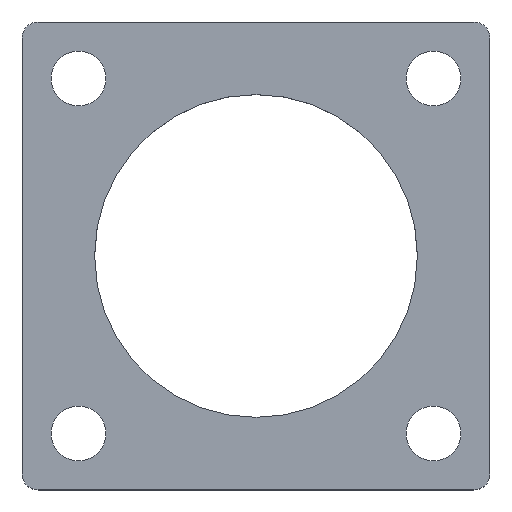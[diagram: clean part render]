
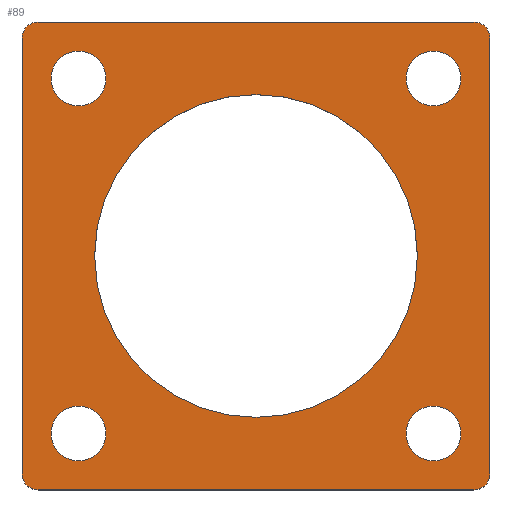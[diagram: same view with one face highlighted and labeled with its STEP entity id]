
A CAD part, top view. The second image highlights one B-rep face of the part: STEP entity #89.
In plain terms, the highlighted planar face has unit normal (0, 0, 1).
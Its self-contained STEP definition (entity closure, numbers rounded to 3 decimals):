
#1 = DIRECTION ( 'NONE',  ( 1., 0., 0. ) ) ;
#3 = VERTEX_POINT ( 'NONE', #399 ) ;
#6 = DIRECTION ( 'NONE',  ( 0., 0., 1. ) ) ;
#7 = VERTEX_POINT ( 'NONE', #364 ) ;
#9 = EDGE_CURVE ( 'NONE', #126, #126, #400, .T. ) ;
#10 = CARTESIAN_POINT ( 'NONE',  ( 13.5, 13.5, 2. ) ) ;
#14 = CARTESIAN_POINT ( 'NONE',  ( 11., 11., 2. ) ) ;
#20 = EDGE_CURVE ( 'NONE', #315, #7, #481, .T. ) ;
#22 = FACE_BOUND ( 'NONE', #165, .T. ) ;
#27 = AXIS2_PLACEMENT_3D ( 'NONE', #229, #344, #352 ) ;
#33 = CARTESIAN_POINT ( 'NONE',  ( 0., 0., 2. ) ) ;
#45 = AXIS2_PLACEMENT_3D ( 'NONE', #157, #354, #1 ) ;
#47 = ORIENTED_EDGE ( 'NONE', *, *, #129, .T. ) ;
#52 = EDGE_LOOP ( 'NONE', ( #489 ) ) ;
#54 = ORIENTED_EDGE ( 'NONE', *, *, #97, .T. ) ;
#56 = DIRECTION ( 'NONE',  ( 0., 0., 1. ) ) ;
#64 = CARTESIAN_POINT ( 'NONE',  ( -13.5, -14.5, 2. ) ) ;
#65 = AXIS2_PLACEMENT_3D ( 'NONE', #190, #186, #182 ) ;
#70 = FACE_BOUND ( 'NONE', #205, .T. ) ;
#74 = ORIENTED_EDGE ( 'NONE', *, *, #305, .T. ) ;
#75 = AXIS2_PLACEMENT_3D ( 'NONE', #10, #132, #86 ) ;
#79 = ORIENTED_EDGE ( 'NONE', *, *, #454, .T. ) ;
#86 = DIRECTION ( 'NONE',  ( 1., 0., 0. ) ) ;
#87 = ORIENTED_EDGE ( 'NONE', *, *, #423, .F. ) ;
#89 = ADVANCED_FACE ( 'NONE', ( #213, #501, #419, #70, #22, #496 ), #220, .T. ) ;
#93 = VECTOR ( 'NONE', #397, 1000. ) ;
#97 = EDGE_CURVE ( 'NONE', #442, #3, #146, .T. ) ;
#101 = DIRECTION ( 'NONE',  ( 0., 0., 1. ) ) ;
#102 = AXIS2_PLACEMENT_3D ( 'NONE', #33, #101, #383 ) ;
#108 = CARTESIAN_POINT ( 'NONE',  ( -13.5, 13.5, 2. ) ) ;
#109 = EDGE_LOOP ( 'NONE', ( #87 ) ) ;
#111 = DIRECTION ( 'NONE',  ( 1., 0., 0. ) ) ;
#115 = EDGE_CURVE ( 'NONE', #160, #437, #374, .T. ) ;
#117 = VERTEX_POINT ( 'NONE', #64 ) ;
#126 = VERTEX_POINT ( 'NONE', #338 ) ;
#128 = EDGE_LOOP ( 'NONE', ( #74, #54, #79, #307, #469, #502, #278, #47 ) ) ;
#129 = EDGE_CURVE ( 'NONE', #7, #117, #136, .T. ) ;
#131 = EDGE_LOOP ( 'NONE', ( #133 ) ) ;
#132 = DIRECTION ( 'NONE',  ( 0., 0., 1. ) ) ;
#133 = ORIENTED_EDGE ( 'NONE', *, *, #329, .F. ) ;
#136 = CIRCLE ( 'NONE', #250, 1. ) ;
#139 = LINE ( 'NONE', #173, #204 ) ;
#142 = CARTESIAN_POINT ( 'NONE',  ( -11., -11., 2. ) ) ;
#146 = CIRCLE ( 'NONE', #65, 1. ) ;
#148 = CARTESIAN_POINT ( 'NONE',  ( 11., -11., 2. ) ) ;
#150 = DIRECTION ( 'NONE',  ( -1., 0., 0. ) ) ;
#151 = VERTEX_POINT ( 'NONE', #331 ) ;
#154 = AXIS2_PLACEMENT_3D ( 'NONE', #108, #415, #378 ) ;
#157 = CARTESIAN_POINT ( 'NONE',  ( -11., 11., 2. ) ) ;
#160 = VERTEX_POINT ( 'NONE', #458 ) ;
#162 = CARTESIAN_POINT ( 'NONE',  ( -14.5, -14.5, 2. ) ) ;
#165 = EDGE_LOOP ( 'NONE', ( #323 ) ) ;
#167 = VERTEX_POINT ( 'NONE', #298 ) ;
#168 = EDGE_CURVE ( 'NONE', #260, #260, #392, .T. ) ;
#170 = DIRECTION ( 'NONE',  ( 1., 0., 0. ) ) ;
#173 = CARTESIAN_POINT ( 'NONE',  ( 14.5, 14.5, 2. ) ) ;
#181 = CARTESIAN_POINT ( 'NONE',  ( 12.7, -11., 2. ) ) ;
#182 = DIRECTION ( 'NONE',  ( 1., 0., 0. ) ) ;
#186 = DIRECTION ( 'NONE',  ( 0., 0., 1. ) ) ;
#190 = CARTESIAN_POINT ( 'NONE',  ( 13.5, -13.5, 2. ) ) ;
#192 = CARTESIAN_POINT ( 'NONE',  ( -14.5, 13.5, 2. ) ) ;
#197 = CIRCLE ( 'NONE', #45, 1.7 ) ;
#204 = VECTOR ( 'NONE', #486, 1000. ) ;
#205 = EDGE_LOOP ( 'NONE', ( #464 ) ) ;
#213 = FACE_BOUND ( 'NONE', #52, .T. ) ;
#214 = EDGE_CURVE ( 'NONE', #437, #315, #368, .T. ) ;
#220 = PLANE ( 'NONE',  #102 ) ;
#229 = CARTESIAN_POINT ( 'NONE',  ( 0., 0., 2. ) ) ;
#231 = AXIS2_PLACEMENT_3D ( 'NONE', #148, #455, #111 ) ;
#233 = CIRCLE ( 'NONE', #276, 1.7 ) ;
#246 = CARTESIAN_POINT ( 'NONE',  ( -14.5, 14.5, 2. ) ) ;
#250 = AXIS2_PLACEMENT_3D ( 'NONE', #456, #380, #376 ) ;
#253 = VERTEX_POINT ( 'NONE', #493 ) ;
#260 = VERTEX_POINT ( 'NONE', #181 ) ;
#264 = LINE ( 'NONE', #162, #461 ) ;
#276 = AXIS2_PLACEMENT_3D ( 'NONE', #14, #6, #170 ) ;
#278 = ORIENTED_EDGE ( 'NONE', *, *, #20, .T. ) ;
#280 = DIRECTION ( 'NONE',  ( 1., 0., 0. ) ) ;
#288 = EDGE_CURVE ( 'NONE', #457, #457, #335, .T. ) ;
#298 = CARTESIAN_POINT ( 'NONE',  ( 14.5, 13.5, 2. ) ) ;
#302 = VECTOR ( 'NONE', #150, 1000. ) ;
#305 = EDGE_CURVE ( 'NONE', #117, #442, #264, .T. ) ;
#307 = ORIENTED_EDGE ( 'NONE', *, *, #443, .T. ) ;
#315 = VERTEX_POINT ( 'NONE', #192 ) ;
#323 = ORIENTED_EDGE ( 'NONE', *, *, #168, .F. ) ;
#327 = CIRCLE ( 'NONE', #75, 1. ) ;
#329 = EDGE_CURVE ( 'NONE', #253, #253, #197, .T. ) ;
#331 = CARTESIAN_POINT ( 'NONE',  ( 12.7, 11., 2. ) ) ;
#332 = CARTESIAN_POINT ( 'NONE',  ( -14.5, 14.5, 2. ) ) ;
#335 = CIRCLE ( 'NONE', #27, 10. ) ;
#338 = CARTESIAN_POINT ( 'NONE',  ( -9.3, -11., 2. ) ) ;
#344 = DIRECTION ( 'NONE',  ( 0., 0., 1. ) ) ;
#352 = DIRECTION ( 'NONE',  ( 1., 0., 0. ) ) ;
#354 = DIRECTION ( 'NONE',  ( 0., 0., 1. ) ) ;
#364 = CARTESIAN_POINT ( 'NONE',  ( -14.5, -13.5, 2. ) ) ;
#368 = CIRCLE ( 'NONE', #154, 1. ) ;
#373 = CARTESIAN_POINT ( 'NONE',  ( 10., 0., 2. ) ) ;
#374 = LINE ( 'NONE', #332, #302 ) ;
#376 = DIRECTION ( 'NONE',  ( 1., 0., 0. ) ) ;
#378 = DIRECTION ( 'NONE',  ( 1., 0., 0. ) ) ;
#380 = DIRECTION ( 'NONE',  ( 0., 0., 1. ) ) ;
#383 = DIRECTION ( 'NONE',  ( 1., 0., 0. ) ) ;
#392 = CIRCLE ( 'NONE', #231, 1.7 ) ;
#397 = DIRECTION ( 'NONE',  ( 0., -1., 0. ) ) ;
#398 = CARTESIAN_POINT ( 'NONE',  ( -13.5, 14.5, 2. ) ) ;
#399 = CARTESIAN_POINT ( 'NONE',  ( 14.5, -13.5, 2. ) ) ;
#400 = CIRCLE ( 'NONE', #478, 1.7 ) ;
#415 = DIRECTION ( 'NONE',  ( 0., 0., 1. ) ) ;
#419 = FACE_BOUND ( 'NONE', #109, .T. ) ;
#423 = EDGE_CURVE ( 'NONE', #151, #151, #233, .T. ) ;
#437 = VERTEX_POINT ( 'NONE', #398 ) ;
#442 = VERTEX_POINT ( 'NONE', #480 ) ;
#443 = EDGE_CURVE ( 'NONE', #167, #160, #327, .T. ) ;
#454 = EDGE_CURVE ( 'NONE', #3, #167, #139, .T. ) ;
#455 = DIRECTION ( 'NONE',  ( 0., 0., 1. ) ) ;
#456 = CARTESIAN_POINT ( 'NONE',  ( -13.5, -13.5, 2. ) ) ;
#457 = VERTEX_POINT ( 'NONE', #373 ) ;
#458 = CARTESIAN_POINT ( 'NONE',  ( 13.5, 14.5, 2. ) ) ;
#461 = VECTOR ( 'NONE', #503, 1000. ) ;
#464 = ORIENTED_EDGE ( 'NONE', *, *, #9, .F. ) ;
#469 = ORIENTED_EDGE ( 'NONE', *, *, #115, .T. ) ;
#478 = AXIS2_PLACEMENT_3D ( 'NONE', #142, #56, #280 ) ;
#480 = CARTESIAN_POINT ( 'NONE',  ( 13.5, -14.5, 2. ) ) ;
#481 = LINE ( 'NONE', #246, #93 ) ;
#486 = DIRECTION ( 'NONE',  ( 0., 1., 0. ) ) ;
#489 = ORIENTED_EDGE ( 'NONE', *, *, #288, .F. ) ;
#493 = CARTESIAN_POINT ( 'NONE',  ( -9.3, 11., 2. ) ) ;
#496 = FACE_OUTER_BOUND ( 'NONE', #128, .T. ) ;
#501 = FACE_BOUND ( 'NONE', #131, .T. ) ;
#502 = ORIENTED_EDGE ( 'NONE', *, *, #214, .T. ) ;
#503 = DIRECTION ( 'NONE',  ( 1., 0., 0. ) ) ;
